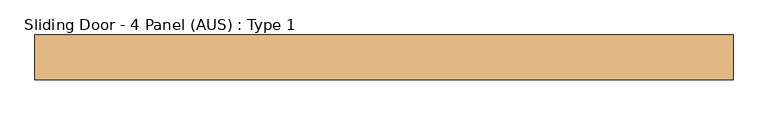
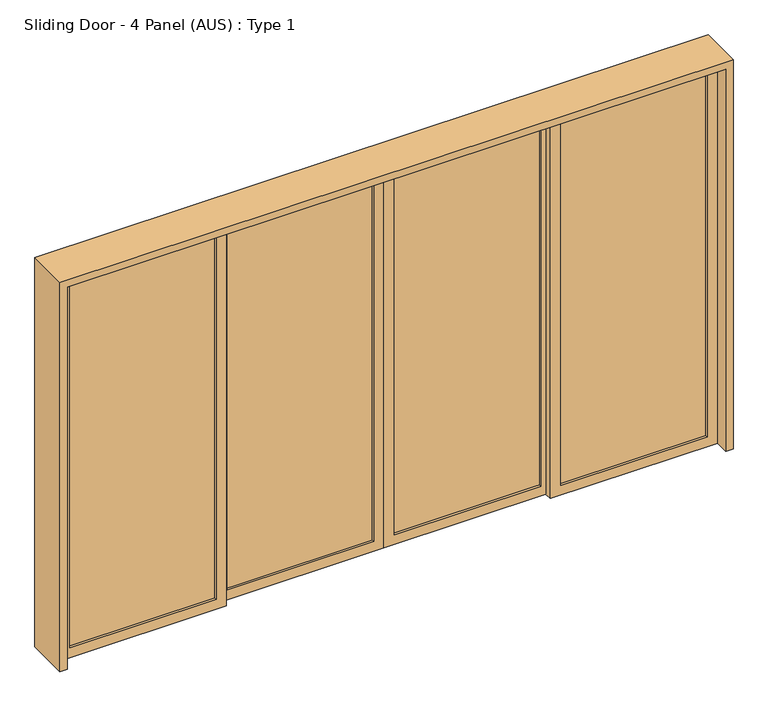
"""IFC4 building model written with IfcOpenShell, lengths in millimetres: door geometry, Sliding Door - 4 Panel (AUS) : Type 1."""

from ifc_helpers import new_model, si_unit, frame, origin, place, context, project, spatial, polyline, outline, extrude, source, transform, mapped, element, save


def sliding_door_4_panel_aus_type_1_f1a49f1a(model_context):
    return source(origin(), model_context, "Body", "SweptSolid", [
        extrude(outline(polyline([(1780.7580012, -13.3333333), (1780.7580012, -26.6666667), (1002.0080012, -26.6666667), (1002.0080012, -13.3333333), (1780.7580012, -13.3333333)])), frame((0.0, 0.0, 55.0), z_axis=(0.0, 0.0, 1.0), x_axis=(1.0, 0.0, 0.0)), (0.0, 0.0, 1.0), 2040.0),
        extrude(outline(polyline([(0.0, 1835.7580012), (2150.0, 1835.7580012), (2150.0, 947.0080012), (0.0, 947.0080012), (0.0, 1835.7580012)]), holes=[polyline([(55.0, 1780.7580012), (55.0, 1002.0080012), (2095.0, 1002.0080012), (2095.0, 1780.7580012), (55.0, 1780.7580012)])]), frame((0.0, -40.0, 0.0), z_axis=(0.0, 1.0, 0.0), x_axis=(0.0, 0.0, 1.0)), (0.0, 0.0, 1.0), 40.0),
        extrude(outline(polyline([(919.5080012, 26.6666667), (919.5080012, 13.3333333), (140.7580012, 13.3333333), (140.7580012, 26.6666667), (919.5080012, 26.6666667)])), frame((0.0, 0.0, 55.0), z_axis=(0.0, 0.0, 1.0), x_axis=(1.0, 0.0, 0.0)), (0.0, 0.0, 1.0), 2040.0),
        extrude(outline(polyline([(0.0, 974.5080012), (2150.0, 974.5080012), (2150.0, 85.7580012), (0.0, 85.7580012), (0.0, 974.5080012)]), holes=[polyline([(55.0, 919.5080012), (55.0, 140.7580012), (2095.0, 140.7580012), (2095.0, 919.5080012), (55.0, 919.5080012)])]), frame((0.0, 0.0, 0.0), z_axis=(0.0, 1.0, 0.0), x_axis=(0.0, 0.0, 1.0)), (0.0, 0.0, 1.0), 40.0),
        extrude(outline(polyline([(30.7580012, 26.6666667), (30.7580012, 13.3333333), (-747.9919988, 13.3333333), (-747.9919988, 26.6666667), (30.7580012, 26.6666667)])), frame((0.0, 0.0, 55.0), z_axis=(0.0, 0.0, 1.0), x_axis=(1.0, 0.0, 0.0)), (0.0, 0.0, 1.0), 2040.0),
        extrude(outline(polyline([(0.0, 85.7580012), (2150.0, 85.7580012), (2150.0, -802.9919988), (0.0, -802.9919988), (0.0, 85.7580012)]), holes=[polyline([(55.0, 30.7580012), (55.0, -747.9919988), (2095.0, -747.9919988), (2095.0, 30.7580012), (55.0, 30.7580012)])]), frame((0.0, 0.0, 0.0), z_axis=(0.0, 1.0, 0.0), x_axis=(0.0, 0.0, 1.0)), (0.0, 0.0, 1.0), 40.0),
        extrude(outline(polyline([(-830.4919988, -13.3333333), (-830.4919988, -26.6666667), (-1609.2419988, -26.6666667), (-1609.2419988, -13.3333333), (-830.4919988, -13.3333333)])), frame((0.0, 0.0, 55.0), z_axis=(0.0, 0.0, 1.0), x_axis=(1.0, 0.0, 0.0)), (0.0, 0.0, 1.0), 2040.0),
        extrude(outline(polyline([(0.0, -775.4919988), (2150.0, -775.4919988), (2150.0, -1664.2419988), (0.0, -1664.2419988), (0.0, -775.4919988)]), holes=[polyline([(55.0, -830.4919988), (55.0, -1609.2419988), (2095.0, -1609.2419988), (2095.0, -830.4919988), (55.0, -830.4919988)])]), frame((0.0, -40.0, 0.0), z_axis=(0.0, 1.0, 0.0), x_axis=(0.0, 0.0, 1.0)), (0.0, 0.0, 1.0), 40.0),
        extrude(outline(polyline([(0.0, -1704.2419988), (0.0, -1664.2419988), (2150.0, -1664.2419988), (2150.0, 1835.7580012), (0.0, 1835.7580012), (0.0, 1875.7580012), (2190.0, 1875.7580012), (2190.0, -1704.2419988), (0.0, -1704.2419988)])), frame((0.0, -115.0, 0.0), z_axis=(0.0, 1.0, 0.0), x_axis=(0.0, 0.0, 1.0)), (0.0, 0.0, 1.0), 230.0),
    ])


if __name__ == "__main__":
    model = new_model("IFC4")
    model_context = context("Model", 3, world=origin())
    ifc_project = project(units=[si_unit("LENGTHUNIT", "METRE", prefix="MILLI")], contexts=[model_context])
    site = spatial("IfcSite", under=ifc_project)
    building = spatial("IfcBuilding", under=site)
    placement = place(None, origin())
    sliding_door_4_panel_aus_type_1_shape = sliding_door_4_panel_aus_type_1_f1a49f1a(model_context)
    element("IfcDoor", 1, ObjectType="Sliding Door - 4 Panel (AUS) : Type 1", at=placement, inside=building, context=model_context, shape_type="MappedRepresentation", body=[
        mapped(sliding_door_4_panel_aus_type_1_shape, transform((0.0, 0.0, 0.0), x_axis=(1.0, 0.0, 0.0), y_axis=(0.0, 1.0, 0.0), z_axis=(0.0, 0.0, 1.0))),
    ])
    save(model, "model.ifc")
